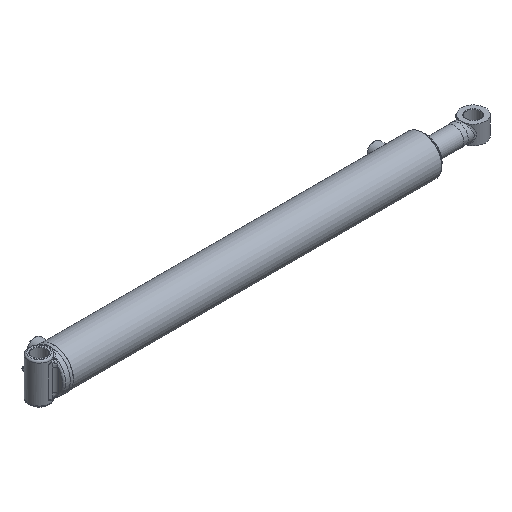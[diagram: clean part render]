
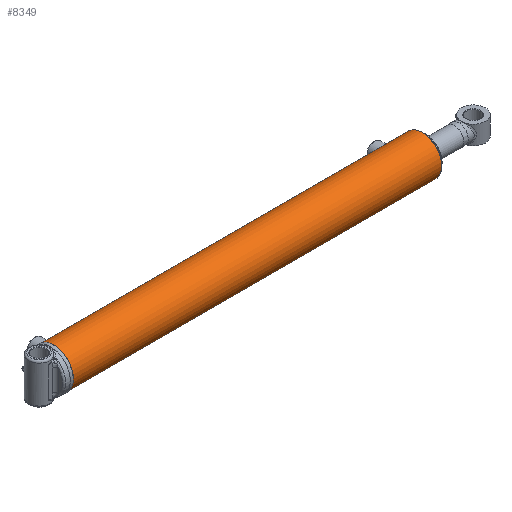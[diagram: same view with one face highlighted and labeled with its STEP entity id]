
A CAD part, isometric view. The second image highlights one B-rep face of the part: STEP entity #8349.
In plain terms, the highlighted cylindrical face has radius 36.513 mm (diameter 73.025 mm), a full revolution.
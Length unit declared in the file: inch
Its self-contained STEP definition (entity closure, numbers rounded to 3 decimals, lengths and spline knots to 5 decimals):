
#803=B_SPLINE_CURVE_WITH_KNOTS('',3,(#12229,#12230,#12231,#12232,#12233,
#12234,#12235,#12236,#12237,#12238),.UNSPECIFIED.,.F.,.F.,(4,2,2,2,4),(0.,
0.17962,0.35924,0.53885,0.71847),
 .UNSPECIFIED.);
#804=B_SPLINE_CURVE_WITH_KNOTS('',3,(#12239,#12240,#12241,#12242,#12243,
#12244,#12245,#12246,#12247,#12248,#12249,#12250,#12251,#12252,#12253,#12254,
#12255,#12256,#12257,#12258,#12259,#12260,#12261,#12262,#12263,#12264),
 .UNSPECIFIED.,.F.,.F.,(4,2,2,2,2,2,2,2,2,2,2,2,4),(0.71847,0.89808,
1.0777,1.25732,1.43694,1.61655,1.79617,
1.97579,2.1554,2.33502,2.51464,2.69425,
2.87387),.UNSPECIFIED.);
#805=B_SPLINE_CURVE_WITH_KNOTS('',3,(#12269,#12270,#12271,#12272,#12273,
#12274,#12275,#12276,#12277,#12278),.UNSPECIFIED.,.F.,.F.,(4,2,2,2,4),(0.,
0.17962,0.35924,0.53885,0.71847),
 .UNSPECIFIED.);
#806=B_SPLINE_CURVE_WITH_KNOTS('',3,(#12279,#12280,#12281,#12282,#12283,
#12284,#12285,#12286,#12287,#12288,#12289,#12290,#12291,#12292,#12293,#12294,
#12295,#12296,#12297,#12298,#12299,#12300,#12301,#12302,#12303,#12304),
 .UNSPECIFIED.,.F.,.F.,(4,2,2,2,2,2,2,2,2,2,2,2,4),(0.71847,0.89808,
1.0777,1.25732,1.43694,1.61655,1.79617,
1.97579,2.1554,2.33502,2.51464,2.69425,
2.87387),.UNSPECIFIED.);
#1153=FACE_BOUND('',#2720,.T.);
#1154=FACE_BOUND('',#2721,.T.);
#1432=LINE('',#12332,#1775);
#1775=VECTOR('',#10077,1.4375);
#2115=CYLINDRICAL_SURFACE('',#9120,1.4375);
#2205=FACE_OUTER_BOUND('',#2719,.T.);
#2719=EDGE_LOOP('',(#5884,#5885,#5886,#5887,#5888,#5889));
#2720=EDGE_LOOP('',(#5890,#5891));
#2721=EDGE_LOOP('',(#5892,#5893));
#3318=CIRCLE('',#9117,1.4375);
#3320=CIRCLE('',#9119,1.4375);
#3321=CIRCLE('',#9121,1.4375);
#3322=CIRCLE('',#9122,1.4375);
#3791=VERTEX_POINT('',#12226);
#3792=VERTEX_POINT('',#12228);
#3793=VERTEX_POINT('',#12266);
#3794=VERTEX_POINT('',#12268);
#3801=VERTEX_POINT('',#12325);
#3802=VERTEX_POINT('',#12326);
#3803=VERTEX_POINT('',#12331);
#3804=VERTEX_POINT('',#12333);
#4597=EDGE_CURVE('',#3792,#3791,#803,.T.);
#4598=EDGE_CURVE('',#3791,#3792,#804,.T.);
#4600=EDGE_CURVE('',#3794,#3793,#805,.T.);
#4601=EDGE_CURVE('',#3793,#3794,#806,.T.);
#4611=EDGE_CURVE('',#3801,#3802,#3318,.T.);
#4613=EDGE_CURVE('',#3802,#3801,#3320,.T.);
#4614=EDGE_CURVE('',#3801,#3803,#1432,.T.);
#4615=EDGE_CURVE('',#3804,#3803,#3321,.T.);
#4616=EDGE_CURVE('',#3803,#3804,#3322,.T.);
#5884=ORIENTED_EDGE('',*,*,#4611,.F.);
#5885=ORIENTED_EDGE('',*,*,#4614,.T.);
#5886=ORIENTED_EDGE('',*,*,#4615,.F.);
#5887=ORIENTED_EDGE('',*,*,#4616,.F.);
#5888=ORIENTED_EDGE('',*,*,#4614,.F.);
#5889=ORIENTED_EDGE('',*,*,#4613,.F.);
#5890=ORIENTED_EDGE('',*,*,#4597,.T.);
#5891=ORIENTED_EDGE('',*,*,#4598,.T.);
#5892=ORIENTED_EDGE('',*,*,#4600,.T.);
#5893=ORIENTED_EDGE('',*,*,#4601,.T.);
#8349=ADVANCED_FACE('',(#2205,#1153,#1154),#2115,.T.);
#9117=AXIS2_PLACEMENT_3D('',#12327,#10069,#10070);
#9119=AXIS2_PLACEMENT_3D('',#12329,#10073,#10074);
#9120=AXIS2_PLACEMENT_3D('',#12330,#10075,#10076);
#9121=AXIS2_PLACEMENT_3D('',#12334,#10078,#10079);
#9122=AXIS2_PLACEMENT_3D('',#12335,#10080,#10081);
#10069=DIRECTION('center_axis',(1.,0.,0.));
#10070=DIRECTION('ref_axis',(0.,-1.,0.));
#10073=DIRECTION('center_axis',(1.,0.,0.));
#10074=DIRECTION('ref_axis',(0.,-1.,0.));
#10075=DIRECTION('center_axis',(1.,0.,0.));
#10076=DIRECTION('ref_axis',(0.,-1.,0.));
#10077=DIRECTION('',(-1.,0.,0.));
#10078=DIRECTION('center_axis',(-1.,0.,0.));
#10079=DIRECTION('ref_axis',(0.,-1.,0.));
#10080=DIRECTION('center_axis',(-1.,0.,0.));
#10081=DIRECTION('ref_axis',(0.,-1.,0.));
#12226=CARTESIAN_POINT('',(0.5925,0.,1.4375));
#12228=CARTESIAN_POINT('',(0.78,-0.1875,1.42522));
#12229=CARTESIAN_POINT('Ctrl Pts',(0.78,-0.1875,1.42522));
#12230=CARTESIAN_POINT('Ctrl Pts',(0.75643,-0.1875,1.42522));
#12231=CARTESIAN_POINT('Ctrl Pts',(0.7313,-0.18278,
1.42586));
#12232=CARTESIAN_POINT('Ctrl Pts',(0.68512,-0.16364,
1.42819));
#12233=CARTESIAN_POINT('Ctrl Pts',(0.66405,-0.14921,
1.42983));
#12234=CARTESIAN_POINT('Ctrl Pts',(0.63079,-0.11595,
1.43291));
#12235=CARTESIAN_POINT('Ctrl Pts',(0.61636,-0.09488,
1.43455));
#12236=CARTESIAN_POINT('Ctrl Pts',(0.59722,-0.0487,
1.43686));
#12237=CARTESIAN_POINT('Ctrl Pts',(0.5925,-0.02357,1.4375));
#12238=CARTESIAN_POINT('Ctrl Pts',(0.5925,0.,1.4375));
#12239=CARTESIAN_POINT('Ctrl Pts',(0.5925,0.,1.4375));
#12240=CARTESIAN_POINT('Ctrl Pts',(0.5925,0.02357,1.4375));
#12241=CARTESIAN_POINT('Ctrl Pts',(0.59722,0.0487,
1.43686));
#12242=CARTESIAN_POINT('Ctrl Pts',(0.61636,0.09488,
1.43455));
#12243=CARTESIAN_POINT('Ctrl Pts',(0.63079,0.11595,
1.43291));
#12244=CARTESIAN_POINT('Ctrl Pts',(0.66405,0.14921,
1.42983));
#12245=CARTESIAN_POINT('Ctrl Pts',(0.68512,0.16364,
1.42819));
#12246=CARTESIAN_POINT('Ctrl Pts',(0.7313,0.18278,
1.42586));
#12247=CARTESIAN_POINT('Ctrl Pts',(0.75643,0.1875,1.42522));
#12248=CARTESIAN_POINT('Ctrl Pts',(0.80357,0.1875,1.42522));
#12249=CARTESIAN_POINT('Ctrl Pts',(0.8287,0.18278,
1.42586));
#12250=CARTESIAN_POINT('Ctrl Pts',(0.87488,0.16364,
1.42819));
#12251=CARTESIAN_POINT('Ctrl Pts',(0.89595,0.14921,
1.42983));
#12252=CARTESIAN_POINT('Ctrl Pts',(0.92921,0.11595,
1.43291));
#12253=CARTESIAN_POINT('Ctrl Pts',(0.94364,0.09488,
1.43455));
#12254=CARTESIAN_POINT('Ctrl Pts',(0.96278,0.0487,
1.43686));
#12255=CARTESIAN_POINT('Ctrl Pts',(0.9675,0.02357,1.4375));
#12256=CARTESIAN_POINT('Ctrl Pts',(0.9675,-0.02357,1.4375));
#12257=CARTESIAN_POINT('Ctrl Pts',(0.96278,-0.0487,
1.43686));
#12258=CARTESIAN_POINT('Ctrl Pts',(0.94364,-0.09488,
1.43455));
#12259=CARTESIAN_POINT('Ctrl Pts',(0.92921,-0.11595,
1.43291));
#12260=CARTESIAN_POINT('Ctrl Pts',(0.89595,-0.14921,
1.42983));
#12261=CARTESIAN_POINT('Ctrl Pts',(0.87488,-0.16364,
1.42819));
#12262=CARTESIAN_POINT('Ctrl Pts',(0.8287,-0.18278,
1.42586));
#12263=CARTESIAN_POINT('Ctrl Pts',(0.80357,-0.1875,1.42522));
#12264=CARTESIAN_POINT('Ctrl Pts',(0.78,-0.1875,1.42522));
#12266=CARTESIAN_POINT('',(25.6095,0.,1.4375));
#12268=CARTESIAN_POINT('',(25.797,-0.1875,1.42522));
#12269=CARTESIAN_POINT('Ctrl Pts',(25.797,-0.1875,1.42522));
#12270=CARTESIAN_POINT('Ctrl Pts',(25.77343,-0.1875,
1.42522));
#12271=CARTESIAN_POINT('Ctrl Pts',(25.7483,-0.18278,
1.42586));
#12272=CARTESIAN_POINT('Ctrl Pts',(25.70212,-0.16364,
1.42819));
#12273=CARTESIAN_POINT('Ctrl Pts',(25.68105,-0.14921,
1.42983));
#12274=CARTESIAN_POINT('Ctrl Pts',(25.64779,-0.11595,1.43291));
#12275=CARTESIAN_POINT('Ctrl Pts',(25.63336,-0.09488,
1.43455));
#12276=CARTESIAN_POINT('Ctrl Pts',(25.61422,-0.0487,
1.43686));
#12277=CARTESIAN_POINT('Ctrl Pts',(25.6095,-0.02357,1.4375));
#12278=CARTESIAN_POINT('Ctrl Pts',(25.6095,0.,1.4375));
#12279=CARTESIAN_POINT('Ctrl Pts',(25.6095,0.,1.4375));
#12280=CARTESIAN_POINT('Ctrl Pts',(25.6095,0.02357,1.4375));
#12281=CARTESIAN_POINT('Ctrl Pts',(25.61422,0.0487,
1.43686));
#12282=CARTESIAN_POINT('Ctrl Pts',(25.63336,0.09488,
1.43455));
#12283=CARTESIAN_POINT('Ctrl Pts',(25.64779,0.11595,1.43291));
#12284=CARTESIAN_POINT('Ctrl Pts',(25.68105,0.14921,1.42983));
#12285=CARTESIAN_POINT('Ctrl Pts',(25.70212,0.16364,1.42819));
#12286=CARTESIAN_POINT('Ctrl Pts',(25.7483,0.18278,1.42586));
#12287=CARTESIAN_POINT('Ctrl Pts',(25.77343,0.1875,1.42522));
#12288=CARTESIAN_POINT('Ctrl Pts',(25.82057,0.1875,1.42522));
#12289=CARTESIAN_POINT('Ctrl Pts',(25.8457,0.18278,1.42586));
#12290=CARTESIAN_POINT('Ctrl Pts',(25.89188,0.16364,1.42819));
#12291=CARTESIAN_POINT('Ctrl Pts',(25.91295,0.14921,1.42983));
#12292=CARTESIAN_POINT('Ctrl Pts',(25.94621,0.11595,1.43291));
#12293=CARTESIAN_POINT('Ctrl Pts',(25.96064,0.09488,
1.43455));
#12294=CARTESIAN_POINT('Ctrl Pts',(25.97978,0.0487,
1.43686));
#12295=CARTESIAN_POINT('Ctrl Pts',(25.9845,0.02357,1.4375));
#12296=CARTESIAN_POINT('Ctrl Pts',(25.9845,-0.02357,1.4375));
#12297=CARTESIAN_POINT('Ctrl Pts',(25.97978,-0.0487,
1.43686));
#12298=CARTESIAN_POINT('Ctrl Pts',(25.96064,-0.09488,
1.43455));
#12299=CARTESIAN_POINT('Ctrl Pts',(25.94621,-0.11595,1.43291));
#12300=CARTESIAN_POINT('Ctrl Pts',(25.91295,-0.14921,
1.42983));
#12301=CARTESIAN_POINT('Ctrl Pts',(25.89188,-0.16364,
1.42819));
#12302=CARTESIAN_POINT('Ctrl Pts',(25.8457,-0.18278,
1.42586));
#12303=CARTESIAN_POINT('Ctrl Pts',(25.82057,-0.1875,
1.42522));
#12304=CARTESIAN_POINT('Ctrl Pts',(25.797,-0.1875,1.42522));
#12325=CARTESIAN_POINT('',(27.227,1.4375,0.));
#12326=CARTESIAN_POINT('',(27.227,0.,-1.4375));
#12327=CARTESIAN_POINT('Origin',(27.227,0.,0.));
#12329=CARTESIAN_POINT('Origin',(27.227,0.,0.));
#12330=CARTESIAN_POINT('Origin',(0.,0.,0.));
#12331=CARTESIAN_POINT('',(0.09382,1.4375,0.));
#12332=CARTESIAN_POINT('',(0.,1.4375,0.));
#12333=CARTESIAN_POINT('',(0.09382,0.,1.4375));
#12334=CARTESIAN_POINT('Origin',(0.09382,0.,0.));
#12335=CARTESIAN_POINT('Origin',(0.09382,0.,0.));
